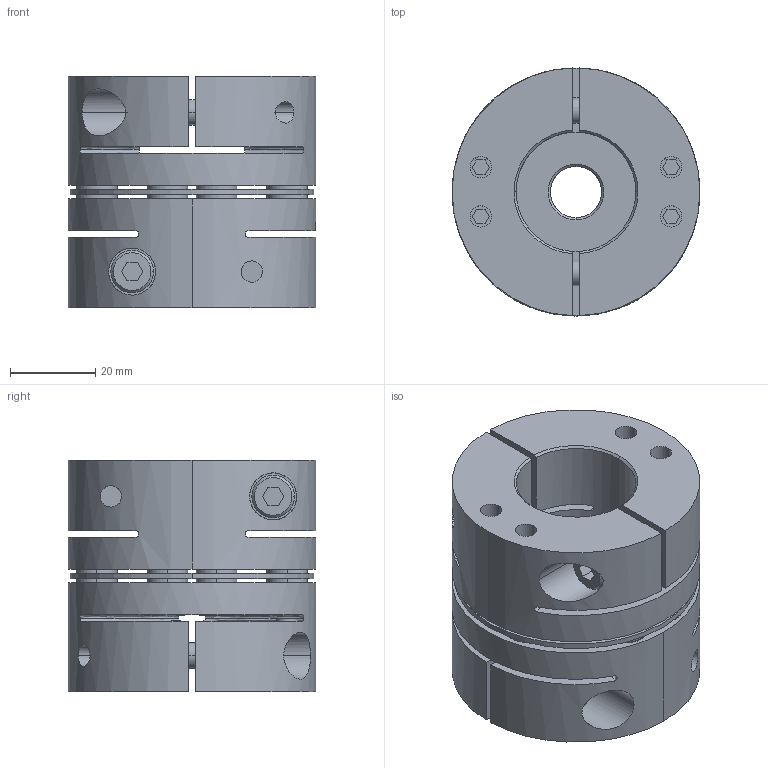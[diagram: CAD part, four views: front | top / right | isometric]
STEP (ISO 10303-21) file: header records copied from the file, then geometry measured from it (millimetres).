
FILE_DESCRIPTION((''),'2;1');
FILE_NAME('TAS-58C-12×28.stp','2022-11-14T22:07:58',(''),(''),'AutoCAD STEP 2000i','AutoCAD 2000i',', , ');
FILE_SCHEMA(('CONFIG_CONTROL_DESIGN'));
Length unit declared in the file: millimetre
Products named in the file (6): TAS-58C-12×22; 忣兜1; TA58C-22; CAP-M6×20; TA58C-12-2; TA58C-12
Assembly tree (7 placements, depth 3):
  TAS-58C-12×22
    忣兜1
    TA58C-22
      CAP-M6×20
    TA58C-12-2
      CAP-M6×20
    TA58C-12
      CAP-M6×20
Bounding box: 58 x 58 x 54.25 mm (x, y, z)
Volume: 103484 mm3; surface area: 41396.4 mm2
Topology: 1 solids, 1 shells, 360 faces, 900 edges, 628 vertices
Faces by surface type: plane 160, cylinder 148, cone 36, bspline 16
Entity records: 12981 total; most frequent: CARTESIAN_POINT 4008, DIRECTION 1922, ORIENTED_EDGE 1720, EDGE_CURVE 860, AXIS2_PLACEMENT_3D 732, VERTEX_POINT 564, EDGE_LOOP 464, VECTOR 458
